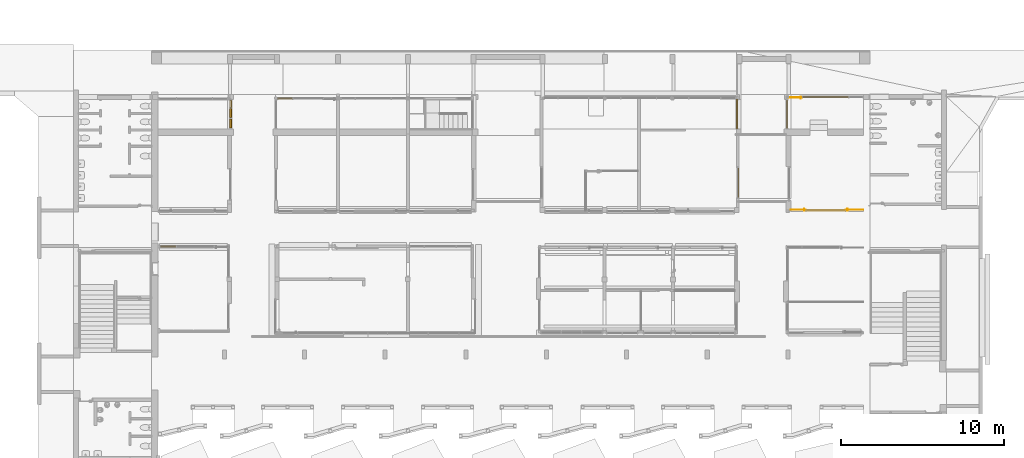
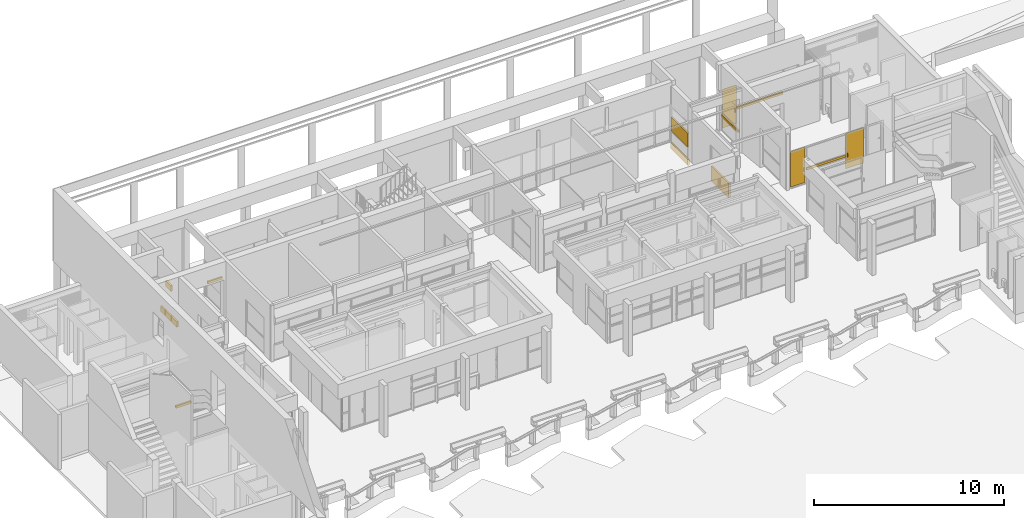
# One storey, part 109 of 117: 12 curtain walls, 3 doors, 8 elements without a shape of their own.
"""IFC4 building model written with IfcOpenShell, lengths in metres."""

from ifc_helpers import new_model, entity, si_unit, converted_unit, derived_unit, direction, frame, origin, place, context, subcontext, project, spatial, indexed_curve, outline, extrude, source, transform, mapped, material, constituent, constituent_set, type_object, type_shapes, element, aggregate, save


model = new_model("IFC4")

# Units and contexts
model_context = context("Model", 3, precision=1e-05, world=origin(), true_north=direction((6.123031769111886e-17, 1.0)))
body_context = subcontext(model_context, "Body", "Model", "MODEL_VIEW")
ifc_project = project(units=[si_unit("LENGTHUNIT", "METRE"), si_unit("AREAUNIT", "SQUARE_METRE"), si_unit("VOLUMEUNIT", "CUBIC_METRE"), converted_unit("PLANEANGLEUNIT", "DEGREE", entity("IfcRatioMeasure", 0.017453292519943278), si_unit("PLANEANGLEUNIT", "RADIAN"), dimensions=[0, 0, 0, 0, 0, 0, 0]), si_unit("MASSUNIT", "GRAM", prefix="KILO"), derived_unit("MASSDENSITYUNIT", [(si_unit("MASSUNIT", "GRAM", prefix="KILO"), 1), (si_unit("LENGTHUNIT", "METRE"), -3)]), derived_unit("MOMENTOFINERTIAUNIT", [(si_unit("LENGTHUNIT", "METRE"), 4)]), si_unit("TIMEUNIT", "SECOND"), si_unit("FREQUENCYUNIT", "HERTZ"), si_unit("THERMODYNAMICTEMPERATUREUNIT", "DEGREE_CELSIUS"), derived_unit("THERMALTRANSMITTANCEUNIT", [(si_unit("MASSUNIT", "GRAM", prefix="KILO"), 1), (si_unit("THERMODYNAMICTEMPERATUREUNIT", "KELVIN"), -1), (si_unit("TIMEUNIT", "SECOND"), -3)]), derived_unit("VOLUMETRICFLOWRATEUNIT", [(si_unit("LENGTHUNIT", "METRE"), 3), (si_unit("TIMEUNIT", "SECOND"), -1)]), derived_unit("MASSFLOWRATEUNIT", [(si_unit("MASSUNIT", "GRAM", prefix="KILO"), 1), (si_unit("TIMEUNIT", "SECOND"), -1)]), derived_unit("ROTATIONALFREQUENCYUNIT", [(si_unit("TIMEUNIT", "SECOND"), -1)]), si_unit("ELECTRICCURRENTUNIT", "AMPERE"), si_unit("ELECTRICVOLTAGEUNIT", "VOLT"), si_unit("POWERUNIT", "WATT"), si_unit("FORCEUNIT", "NEWTON", prefix="KILO"), si_unit("ILLUMINANCEUNIT", "LUX"), si_unit("LUMINOUSFLUXUNIT", "LUMEN"), si_unit("LUMINOUSINTENSITYUNIT", "CANDELA"), derived_unit("USERDEFINED", [(si_unit("MASSUNIT", "GRAM", prefix="KILO"), -1), (si_unit("LENGTHUNIT", "METRE"), -2), (si_unit("TIMEUNIT", "SECOND"), 3), (si_unit("LUMINOUSFLUXUNIT", "LUMEN"), 1)]), derived_unit("SOUNDPOWERUNIT", [(si_unit("MASSUNIT", "GRAM", prefix="KILO"), 1), (si_unit("LENGTHUNIT", "METRE"), 2), (si_unit("TIMEUNIT", "SECOND"), -3)]), derived_unit("SOUNDPRESSUREUNIT", [(si_unit("MASSUNIT", "GRAM", prefix="KILO"), 1), (si_unit("LENGTHUNIT", "METRE"), -1), (si_unit("TIMEUNIT", "SECOND"), -2)]), derived_unit("LINEARVELOCITYUNIT", [(si_unit("LENGTHUNIT", "METRE"), 1), (si_unit("TIMEUNIT", "SECOND"), -1)]), si_unit("PRESSUREUNIT", "PASCAL"), derived_unit("USERDEFINED", [(si_unit("LENGTHUNIT", "METRE"), -2), (si_unit("MASSUNIT", "GRAM", prefix="KILO"), 1), (si_unit("TIMEUNIT", "SECOND"), -2)]), derived_unit("LINEARFORCEUNIT", [(si_unit("MASSUNIT", "GRAM", prefix="KILO"), 1), (si_unit("LENGTHUNIT", "METRE"), 1), (si_unit("TIMEUNIT", "SECOND"), -2), (si_unit("LENGTHUNIT", "METRE"), -1)]), derived_unit("PLANARFORCEUNIT", [(si_unit("MASSUNIT", "GRAM", prefix="KILO"), 1), (si_unit("LENGTHUNIT", "METRE"), 1), (si_unit("TIMEUNIT", "SECOND"), -2), (si_unit("LENGTHUNIT", "METRE"), -2)])], contexts=[model_context])

# Site, building, storey
site_placement = place(None, origin())
site = spatial("IfcSite", under=ifc_project, at=site_placement, Name="Superficie", CompositionType="ELEMENT")
building_placement = place(site_placement, origin())
building = spatial("IfcBuilding", under=site, at=building_placement, CompositionType="ELEMENT")
storey_placement = place(building_placement, origin())
storey = spatial("IfcBuildingStorey", under=building, at=storey_placement, Name="Nivel 0", CompositionType="ELEMENT", Elevation=0.0)

# Curtain walls
curtain_wall_type_1 = type_object("IfcCurtainWallType", Name="Muro cortina:Muro cortina - simple", PredefinedType="NOTDEFINED")
curtain_wall_1_placement = place(storey_placement, origin())
curtain_wall_1 = element("IfcCurtainWall", 1, at=curtain_wall_1_placement, inside=storey, type_object=curtain_wall_type_1, Name="Muro cortina:Muro cortina - simple", ObjectType="Muro cortina:Muro cortina - simple", PredefinedType="NOTDEFINED")
ifc_material_1 = material(Name="<Unnamed>")
curtain_wall_type_2 = type_object("IfcCurtainWallType", Name="Muro básico:Por defecto - 10 cm", PredefinedType="NOTDEFINED")
curtain_wall_2_placement = place(storey_placement, frame((12.881799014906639, 8.388973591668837, 0.04500000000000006), z_axis=(0.0, 0.0, 1.0), x_axis=(0.0, -1.0, 0.0)))
curtain_wall_2 = element("IfcCurtainWall", 2, at=curtain_wall_2_placement, type_object=curtain_wall_type_2, material=ifc_material_1, Name="Muro básico:Por defecto - 10 cm", ObjectType="Muro básico:Por defecto - 10 cm", PredefinedType="NOTDEFINED", context=body_context, shape_type="SweptSolid", body=[
    extrude(outline(indexed_curve([(1.8272338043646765, 0.049999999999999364), (-5.660014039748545e-17, 0.04999999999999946), (5.660014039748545e-17, -0.04999999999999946), (1.8272338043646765, -0.049999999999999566), (1.8272338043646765, 0.049999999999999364)], self_intersect=False)), origin(), (0.0, 0.0, 1.0), 0.9500000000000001),
])
aggregate(curtain_wall_1, [curtain_wall_2])

curtain_wall_3_placement = place(storey_placement, origin())
curtain_wall_3 = element("IfcCurtainWall", 3, at=curtain_wall_3_placement, inside=storey, type_object=curtain_wall_type_1, Name="Muro cortina:Muro cortina - simple", ObjectType="Muro cortina:Muro cortina - simple", PredefinedType="NOTDEFINED")
curtain_wall_4_placement = place(storey_placement, frame((-18.193200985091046, 10.815829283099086, 0.04499999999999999), z_axis=(0.0, 0.0, 1.0), x_axis=(0.0, 1.0, 0.0)))
curtain_wall_4 = element("IfcCurtainWall", 4, at=curtain_wall_4_placement, type_object=curtain_wall_type_2, material=ifc_material_1, Name="Muro básico:Por defecto - 10 cm", ObjectType="Muro básico:Por defecto - 10 cm", PredefinedType="NOTDEFINED", context=body_context, shape_type="SweptSolid", body=[
    extrude(outline(indexed_curve([(0.5782098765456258, 0.050000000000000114), (-5.639932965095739e-17, 0.04999999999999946), (5.639932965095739e-17, -0.04999999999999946), (0.578209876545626, -0.04999999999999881), (0.5782098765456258, 0.050000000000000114)], self_intersect=False)), origin(), (0.0, 0.0, 1.0), 0.3500000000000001),
])
curtain_wall_5_placement = place(storey_placement, frame((-18.193200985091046, 11.444039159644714, 0.04499999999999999), z_axis=(0.0, 0.0, 1.0), x_axis=(0.0, 1.0, 0.0)))
curtain_wall_5 = element("IfcCurtainWall", 5, at=curtain_wall_5_placement, type_object=curtain_wall_type_2, material=ifc_material_1, Name="Muro básico:Por defecto - 10 cm", ObjectType="Muro básico:Por defecto - 10 cm", PredefinedType="NOTDEFINED", context=body_context, shape_type="SweptSolid", body=[
    extrude(outline(indexed_curve([(0.578209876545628, 0.04999999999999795), (-5.639932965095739e-17, 0.04999999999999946), (5.639932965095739e-17, -0.04999999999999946), (0.5782098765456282, -0.050000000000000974), (0.578209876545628, 0.04999999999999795)], self_intersect=False)), origin(), (0.0, 0.0, 1.0), 0.3500000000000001),
])
curtain_wall_6_placement = place(storey_placement, frame((-18.193200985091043, 12.072249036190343, 0.04499999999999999), z_axis=(0.0, 0.0, 1.0), x_axis=(0.0, 1.0, 0.0)))
curtain_wall_6 = element("IfcCurtainWall", 6, at=curtain_wall_6_placement, type_object=curtain_wall_type_2, material=ifc_material_1, Name="Muro básico:Por defecto - 10 cm", ObjectType="Muro básico:Por defecto - 10 cm", PredefinedType="NOTDEFINED", context=body_context, shape_type="SweptSolid", body=[
    extrude(outline(indexed_curve([(0.44858024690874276, 0.04999999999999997), (-5.639932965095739e-17, 0.04999999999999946), (5.639932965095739e-17, -0.04999999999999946), (0.44858024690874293, -0.049999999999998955), (0.44858024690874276, 0.04999999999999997)], self_intersect=False)), origin(), (0.0, 0.0, 1.0), 0.3500000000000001),
])
curtain_wall_7_placement = place(storey_placement, frame((-18.193200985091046, 11.444039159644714, 1.9549999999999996), z_axis=(0.0, 0.0, 1.0), x_axis=(0.0, 1.0, 0.0)))
curtain_wall_7 = element("IfcCurtainWall", 7, at=curtain_wall_7_placement, type_object=curtain_wall_type_2, material=ifc_material_1, Name="Muro básico:Por defecto - 10 cm", ObjectType="Muro básico:Por defecto - 10 cm", PredefinedType="NOTDEFINED", context=body_context, shape_type="SweptSolid", body=[
    extrude(outline(indexed_curve([(0.578209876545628, 0.04999999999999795), (-5.639932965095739e-17, 0.04999999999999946), (5.639932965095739e-17, -0.04999999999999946), (0.5782098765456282, -0.050000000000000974), (0.578209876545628, 0.04999999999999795)], self_intersect=False)), origin(), (0.0, 0.0, 1.0), 0.3750000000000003),
])
aggregate(curtain_wall_3, [curtain_wall_4, curtain_wall_5, curtain_wall_6, curtain_wall_7])

curtain_wall_8_placement = place(storey_placement, origin())
curtain_wall_8 = element("IfcCurtainWall", 8, at=curtain_wall_8_placement, inside=storey, type_object=curtain_wall_type_1, Name="Muro cortina:Muro cortina - simple", ObjectType="Muro cortina:Muro cortina - simple", PredefinedType="NOTDEFINED")
curtain_wall_9_placement = place(storey_placement, frame((12.840568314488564, 10.790829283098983, -0.41566592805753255), z_axis=(0.0, 0.0, 1.0), x_axis=(0.0, 1.0, 0.0)))
curtain_wall_9 = element("IfcCurtainWall", 9, at=curtain_wall_9_placement, type_object=curtain_wall_type_2, material=ifc_material_1, Name="Muro básico:Por defecto - 10 cm", ObjectType="Muro básico:Por defecto - 10 cm", PredefinedType="NOTDEFINED", context=body_context, shape_type="SweptSolid", body=[
    extrude(outline(indexed_curve([(1.7937191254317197, 0.049999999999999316), (-5.639932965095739e-17, 0.04999999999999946), (5.639932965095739e-17, -0.04999999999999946), (1.7937191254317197, -0.04999999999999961), (1.7937191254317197, 0.049999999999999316)], self_intersect=False)), origin(), (0.0, 0.0, 1.0), 0.39454560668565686),
])
curtain_wall_10_placement = place(storey_placement, frame((12.840568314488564, 10.815829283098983, 0.755), z_axis=(0.0, 0.0, 1.0), x_axis=(0.0, 1.0, 0.0)))
curtain_wall_10 = element("IfcCurtainWall", 10, at=curtain_wall_10_placement, type_object=curtain_wall_type_2, material=ifc_material_1, Name="Muro básico:Por defecto - 10 cm", ObjectType="Muro básico:Por defecto - 10 cm", PredefinedType="NOTDEFINED", context=body_context, shape_type="SweptSolid", body=[
    extrude(outline(indexed_curve([(1.7187191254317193, 0.04999999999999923), (-5.639932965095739e-17, 0.04999999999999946), (5.639932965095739e-17, -0.04999999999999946), (1.7187191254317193, -0.04999999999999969), (1.7187191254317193, 0.04999999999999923)], self_intersect=False)), origin(), (0.0, 0.0, 1.0), 0.8999999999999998),
])
aggregate(curtain_wall_8, [curtain_wall_9, curtain_wall_10])

curtain_wall_11_placement = place(storey_placement, origin())
curtain_wall_11 = element("IfcCurtainWall", 11, at=curtain_wall_11_placement, inside=storey, type_object=curtain_wall_type_1, Name="Muro cortina:Muro cortina - simple", ObjectType="Muro cortina:Muro cortina - simple", PredefinedType="NOTDEFINED")
curtain_wall_12_placement = place(storey_placement, frame((-21.56820098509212, 3.5708292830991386, 0.7449999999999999), z_axis=(0.0, 0.0, 1.0), x_axis=(-1.0, 0.0, 0.0)))
curtain_wall_12 = element("IfcCurtainWall", 12, at=curtain_wall_12_placement, type_object=curtain_wall_type_2, material=ifc_material_1, Name="Muro básico:Por defecto - 10 cm", ObjectType="Muro básico:Por defecto - 10 cm", PredefinedType="NOTDEFINED", context=body_context, shape_type="SweptSolid", body=[
    extrude(outline(indexed_curve([(0.9302918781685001, 0.05000000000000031), (-1.6191195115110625e-16, 0.05), (1.6191195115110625e-16, -0.05), (0.9302918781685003, -0.0499999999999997), (0.9302918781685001, 0.05000000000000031)], self_intersect=False)), origin(), (0.0, 0.0, 1.0), 0.15000000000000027),
])
aggregate(curtain_wall_11, [curtain_wall_12])

curtain_wall_13_placement = place(storey_placement, origin())
curtain_wall_13 = element("IfcCurtainWall", 13, at=curtain_wall_13_placement, inside=storey, type_object=curtain_wall_type_1, Name="Muro cortina:Muro cortina - simple", ObjectType="Muro cortina:Muro cortina - simple", PredefinedType="NOTDEFINED")
curtain_wall_14_placement = place(storey_placement, frame((-14.427388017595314, 12.640829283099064, 0.7250000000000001), z_axis=(0.0, 0.0, 1.0), x_axis=(-1.0, 0.0, 0.0)))
curtain_wall_14 = element("IfcCurtainWall", 14, at=curtain_wall_14_placement, type_object=curtain_wall_type_2, material=ifc_material_1, Name="Muro básico:Por defecto - 10 cm", ObjectType="Muro básico:Por defecto - 10 cm", PredefinedType="NOTDEFINED", context=body_context, shape_type="SweptSolid", body=[
    extrude(outline(indexed_curve([(0.895000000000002, 0.04999999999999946), (-2.4198148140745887e-16, 0.04999999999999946), (2.4198148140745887e-16, -0.04999999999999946), (0.8950000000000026, -0.04999999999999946), (0.895000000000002, 0.04999999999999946)], self_intersect=False)), origin(), (0.0, 0.0, 1.0), 0.15000000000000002),
])
aggregate(curtain_wall_13, [curtain_wall_14])

curtain_wall_15_placement = place(storey_placement, origin())
curtain_wall_15 = element("IfcCurtainWall", 15, at=curtain_wall_15_placement, inside=storey, type_object=curtain_wall_type_1, Name="Muro cortina:Muro cortina - simple", ObjectType="Muro cortina:Muro cortina - simple", PredefinedType="NOTDEFINED")
curtain_wall_16_placement = place(storey_placement, frame((15.90600195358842, 12.534548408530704, 0.6073999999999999), z_axis=(0.0, 0.0, 1.0), x_axis=(0.0, -1.0, 0.0)))
curtain_wall_16 = element("IfcCurtainWall", 16, at=curtain_wall_16_placement, type_object=curtain_wall_type_2, material=ifc_material_1, Name="Muro básico:Por defecto - 10 cm", ObjectType="Muro básico:Por defecto - 10 cm", PredefinedType="NOTDEFINED", context=body_context, shape_type="SweptSolid", body=[
    extrude(outline(indexed_curve([(1.7137191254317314, 0.049999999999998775), (-1.0644366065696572e-16, 0.04999999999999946), (1.0644366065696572e-16, -0.04999999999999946), (1.7137191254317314, -0.05000000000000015), (1.7137191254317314, 0.049999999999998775)], self_intersect=False)), origin(), (0.0, 0.0, 1.0), 0.15000000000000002),
])
aggregate(curtain_wall_15, [curtain_wall_16])

curtain_wall_17_placement = place(storey_placement, origin())
curtain_wall_17 = element("IfcCurtainWall", 17, at=curtain_wall_17_placement, inside=storey, type_object=curtain_wall_type_1, Name="Muro cortina:Muro cortina - simple", ObjectType="Muro cortina:Muro cortina - simple", PredefinedType="NOTDEFINED")
curtain_wall_18_placement = place(storey_placement, frame((16.88100195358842, 12.734548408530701, 0.6059731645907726)))
curtain_wall_18 = element("IfcCurtainWall", 18, at=curtain_wall_18_placement, type_object=curtain_wall_type_2, material=ifc_material_1, Name="Muro básico:Por defecto - 10 cm", ObjectType="Muro básico:Por defecto - 10 cm", PredefinedType="NOTDEFINED", context=body_context, shape_type="SweptSolid", body=[
    extrude(outline(indexed_curve([(2.780797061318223, 0.04999999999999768), (-1.6265610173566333e-16, 0.04999999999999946), (1.6265610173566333e-16, -0.04999999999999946), (2.780797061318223, -0.050000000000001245), (2.780797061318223, 0.04999999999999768)], self_intersect=False)), origin(), (0.0, 0.0, 1.0), 0.15000000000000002),
])

# Curtain walls, doors
curtain_wall_19_placement = place(storey_placement, origin())
curtain_wall_19 = element("IfcCurtainWall", 19, at=curtain_wall_19_placement, inside=storey, type_object=curtain_wall_type_1, Name="Muro cortina:Muro cortina - simple", ObjectType="Muro cortina:Muro cortina - simple", PredefinedType="NOTDEFINED")
ifc_material_2 = material(Name="Metal - Aluminio", Category="Metal")
ifc_constituent_1 = constituent(ifc_material_2, Name="Metal - Aluminio", Category="Metal")
ifc_material_3 = material(Name="Vidrio", Category="Vidrio")
ifc_constituent_2 = constituent(ifc_material_3, Name="Vidrio", Category="Vidrio")
ifc_constituent_set_1 = constituent_set(constituents=[ifc_constituent_1, ifc_constituent_2], Name="MaterialConstituentSet")
ifc_constituent_3 = constituent(ifc_material_2, Name="Marco/montante", Category="Metal")
ifc_constituent_4 = constituent(ifc_material_3, Name="Panel", Category="Vidrio")
ifc_constituent_set_2 = constituent_set(constituents=[ifc_constituent_3, ifc_constituent_4], Name="MaterialConstituentSet")
door_type_1 = type_object("IfcDoorType", Name="Puerta de cristal abatible en muro cortina:Puerta de cristal abatible en muro cortina", OperationType="NOTDEFINED", PredefinedType="DOOR", material=ifc_constituent_set_2)
shared_shape_1 = source(origin(), body_context, "Body", "SweptSolid", [
    extrude(outline(indexed_curve([(-0.012700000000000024, -0.0254), (0.012700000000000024, -0.0254), (0.012700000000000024, 0.0254), (-0.012700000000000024, 0.0254), (-0.012700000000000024, -0.0254)], self_intersect=False)), frame((0.36110000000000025, 0.012900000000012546, 0.7619999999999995)), (0.0, 0.0, 1.0), 0.22860000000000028),
    extrude(outline(indexed_curve([(-0.012699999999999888, -0.025399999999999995), (0.01269999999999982, -0.025399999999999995), (0.01269999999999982, 0.025400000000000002), (-0.012699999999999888, 0.025400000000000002), (-0.012699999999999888, -0.025399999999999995)], self_intersect=False)), frame((0.36110000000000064, 0.07640000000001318, 0.762), z_axis=(0.0, 0.0, 1.0), x_axis=(-1.0, 0.0, 0.0)), (0.0, 0.0, 1.0), 0.22860000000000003),
    extrude(outline(indexed_curve([(-0.006350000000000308, -0.45000000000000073), (0.006350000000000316, -0.4500000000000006), (0.006350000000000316, 0.4500000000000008), (-0.006350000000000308, 0.45000000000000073), (-0.006350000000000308, -0.45000000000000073)], self_intersect=False)), frame((0.0, 0.04465000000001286, 0.0), z_axis=(0.0, 0.0, 1.0), x_axis=(0.0, -1.0, 0.0)), (0.0, 0.0, 1.0), 2.2849999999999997),
])
type_shapes(door_type_1, [shared_shape_1])
door_1_placement = place(curtain_wall_19_placement, frame((16.596799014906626, 5.766739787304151, 0.04499999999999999)))
door_1 = element("IfcDoor", 20, at=door_1_placement, type_object=door_type_1, material=ifc_constituent_set_1, Name="Puerta de cristal abatible en muro cortina:Puerta de cristal abatible en muro cortina", ObjectType="Puerta de cristal abatible en muro cortina:Puerta de cristal abatible en muro cortina", OperationType="NOTDEFINED", OverallHeight=2.2849999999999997, OverallWidth=0.9000000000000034, PredefinedType="DOOR", context=body_context, shape_type="MappedRepresentation", body=[
    mapped(shared_shape_1, transform((0.0, 0.0, 0.0), scale=1.0)),
])
ifc_constituent_5 = constituent(ifc_material_2, Name="Metal - Aluminio", Category="Metal")
ifc_constituent_6 = constituent(ifc_material_3, Name="Vidrio", Category="Vidrio")
ifc_constituent_set_3 = constituent_set(constituents=[ifc_constituent_5, ifc_constituent_6], Name="MaterialConstituentSet")
ifc_constituent_7 = constituent(ifc_material_2, Name="Marco/montante", Category="Metal")
ifc_constituent_8 = constituent(ifc_material_3, Name="Panel", Category="Vidrio")
ifc_constituent_set_4 = constituent_set(constituents=[ifc_constituent_7, ifc_constituent_8], Name="MaterialConstituentSet")
door_type_2 = type_object("IfcDoorType", Name="Puerta de cristal abatible en muro cortina:Puerta de cristal abatible en muro cortina", OperationType="NOTDEFINED", PredefinedType="DOOR", material=ifc_constituent_set_4)
shared_shape_2 = source(origin(), body_context, "Body", "SweptSolid", [
    extrude(outline(indexed_curve([(-0.0254, -0.012700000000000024), (0.0254, -0.012700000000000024), (0.0254, 0.012700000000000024), (-0.0254, 0.012700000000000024), (-0.0254, -0.012700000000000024)], self_intersect=False)), frame((-0.4485999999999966, 0.012900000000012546, 0.7619999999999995), z_axis=(0.0, 0.0, 1.0), x_axis=(0.0, 1.0, 0.0)), (0.0, 0.0, 1.0), 0.22860000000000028),
    extrude(outline(indexed_curve([(-0.025399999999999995, -0.012699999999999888), (0.025400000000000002, -0.012699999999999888), (0.025400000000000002, 0.01269999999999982), (-0.025399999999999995, 0.01269999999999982), (-0.025399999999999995, -0.012699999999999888)], self_intersect=False)), frame((-0.44859999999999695, 0.07640000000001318, 0.762), z_axis=(0.0, 0.0, 1.0), x_axis=(0.0, -1.0, 0.0)), (0.0, 0.0, 1.0), 0.22860000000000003),
    extrude(outline(indexed_curve([(-0.5374999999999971, -0.006350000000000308), (0.5374999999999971, -0.006350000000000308), (0.5374999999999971, 0.006350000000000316), (-0.5374999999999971, 0.006350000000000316), (-0.5374999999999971, -0.006350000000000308)], self_intersect=False)), frame((0.0, 0.04465000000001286, 0.0), z_axis=(0.0, 0.0, 1.0), x_axis=(-1.0, 0.0, 0.0)), (0.0, 0.0, 1.0), 2.2849999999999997),
])
type_shapes(door_type_2, [shared_shape_2])
door_2_placement = place(curtain_wall_19_placement, frame((20.049299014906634, 5.76673978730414, 0.04499999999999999)))
door_2 = element("IfcDoor", 21, at=door_2_placement, type_object=door_type_2, material=ifc_constituent_set_3, Name="Puerta de cristal abatible en muro cortina:Puerta de cristal abatible en muro cortina", ObjectType="Puerta de cristal abatible en muro cortina:Puerta de cristal abatible en muro cortina", OperationType="NOTDEFINED", OverallHeight=2.2849999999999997, OverallWidth=1.074999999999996, PredefinedType="DOOR", context=body_context, shape_type="MappedRepresentation", body=[
    mapped(shared_shape_2, transform((0.0, 0.0, 0.0), scale=1.0)),
])
curtain_wall_type_3 = type_object("IfcCurtainWallType", Name="Muro básico:Por defecto - 5 cm 2", PredefinedType="NOTDEFINED")
curtain_wall_20_placement = place(storey_placement, frame((17.096799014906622, 5.76673978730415, 0.8450000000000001)))
curtain_wall_20 = element("IfcCurtainWall", 22, at=curtain_wall_20_placement, type_object=curtain_wall_type_3, material=ifc_material_1, Name="Muro básico:Por defecto - 5 cm 2", ObjectType="Muro básico:Por defecto - 5 cm 2", PredefinedType="NOTDEFINED", context=body_context, shape_type="SweptSolid", body=[
    extrude(outline(indexed_curve([(2.3650000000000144, 0.02499999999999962), (-7.895906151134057e-17, 0.02499999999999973), (7.895906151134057e-17, -0.02499999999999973), (2.3650000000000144, -0.024999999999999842), (2.3650000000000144, 0.02499999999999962)], self_intersect=False)), origin(), (0.0, 0.0, 1.0), 0.15000000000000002),
])
aggregate(curtain_wall_19, [door_1, door_2, curtain_wall_20])

# Door
ifc_constituent_9 = constituent(ifc_material_2, Name="Metal - Aluminio", Category="Metal")
ifc_constituent_10 = constituent(ifc_material_3, Name="Vidrio", Category="Vidrio")
ifc_constituent_set_5 = constituent_set(constituents=[ifc_constituent_9, ifc_constituent_10], Name="MaterialConstituentSet")
ifc_constituent_11 = constituent(ifc_material_2, Name="Marco/montante", Category="Metal")
ifc_constituent_12 = constituent(ifc_material_3, Name="Panel", Category="Vidrio")
ifc_constituent_set_6 = constituent_set(constituents=[ifc_constituent_11, ifc_constituent_12], Name="MaterialConstituentSet")
door_type_3 = type_object("IfcDoorType", Name="Puerta de cristal abatible en muro cortina:Puerta de cristal abatible en muro cortina", OperationType="NOTDEFINED", PredefinedType="DOOR", material=ifc_constituent_set_6)
shared_shape_3 = source(origin(), body_context, "Body", "SweptSolid", [
    extrude(outline(indexed_curve([(-0.0254, -0.012700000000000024), (0.0254, -0.012700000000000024), (0.0254, 0.012700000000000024), (-0.0254, 0.012700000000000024), (-0.0254, -0.012700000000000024)], self_intersect=False)), frame((-0.32359999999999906, 0.012900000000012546, 0.7619999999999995), z_axis=(0.0, 0.0, 1.0), x_axis=(0.0, 1.0, 0.0)), (0.0, 0.0, 1.0), 0.22860000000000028),
    extrude(outline(indexed_curve([(-0.025399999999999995, -0.012699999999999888), (0.025400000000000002, -0.012699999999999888), (0.025400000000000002, 0.01269999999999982), (-0.025399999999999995, 0.01269999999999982), (-0.025399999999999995, -0.012699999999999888)], self_intersect=False)), frame((-0.3235999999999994, 0.07640000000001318, 0.762), z_axis=(0.0, 0.0, 1.0), x_axis=(0.0, -1.0, 0.0)), (0.0, 0.0, 1.0), 0.22860000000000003),
    extrude(outline(indexed_curve([(-0.4124999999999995, -0.006350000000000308), (0.4124999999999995, -0.006350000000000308), (0.4124999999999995, 0.006350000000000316), (-0.4124999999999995, 0.006350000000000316), (-0.4124999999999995, -0.006350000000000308)], self_intersect=False)), frame((0.0, 0.04465000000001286, 0.0), z_axis=(0.0, 0.0, 1.0), x_axis=(-1.0, 0.0, 0.0)), (0.0, 0.0, 1.0), 2.4790268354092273),
])
type_shapes(door_type_3, [shared_shape_3])
door_3_placement = place(curtain_wall_17_placement, frame((16.418501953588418, 12.734548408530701, -0.2690268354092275), z_axis=(0.0, 0.0, 1.0), x_axis=(-1.0, 0.0, 0.0)))
door_3 = element("IfcDoor", 23, at=door_3_placement, type_object=door_type_3, material=ifc_constituent_set_5, Name="Puerta de cristal abatible en muro cortina:Puerta de cristal abatible en muro cortina", ObjectType="Puerta de cristal abatible en muro cortina:Puerta de cristal abatible en muro cortina", OperationType="NOTDEFINED", OverallHeight=2.4790268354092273, OverallWidth=0.8250000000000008, PredefinedType="DOOR", context=body_context, shape_type="MappedRepresentation", body=[
    mapped(shared_shape_3, transform((0.0, 0.0, 0.0), scale=1.0)),
])

aggregate(curtain_wall_17, [door_3, curtain_wall_18])

save(model, "model.ifc")
